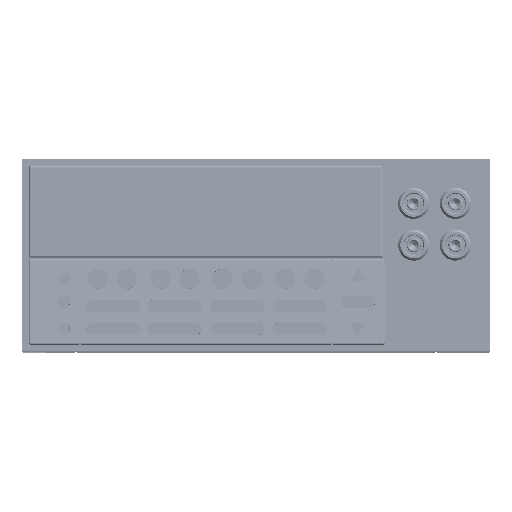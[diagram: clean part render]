
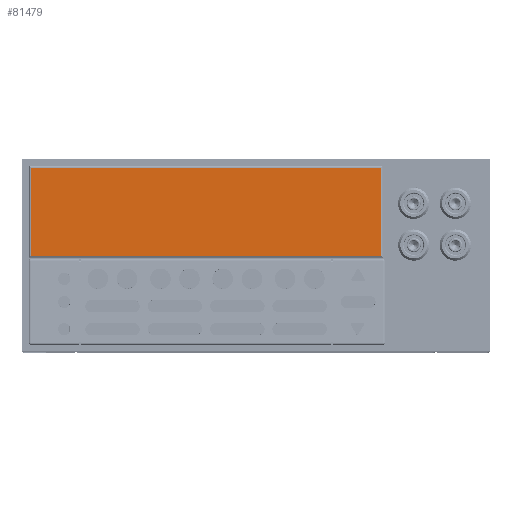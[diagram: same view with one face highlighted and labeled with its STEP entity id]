
A CAD part, top view. The second image highlights one B-rep face of the part: STEP entity #81479.
In plain terms, the highlighted planar face has unit normal (0, 0, 1).
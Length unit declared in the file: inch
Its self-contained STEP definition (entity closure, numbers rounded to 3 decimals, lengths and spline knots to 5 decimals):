
#81268=DIRECTION('',(1.,0.,0.));
#81269=VECTOR('',#81268,6.298);
#81270=CARTESIAN_POINT('',(0.035,0.035,0.093));
#81271=LINE('',#81270,#81269);
#81285=DIRECTION('',(0.,-1.,0.));
#81286=VECTOR('',#81285,1.578);
#81287=CARTESIAN_POINT('',(0.035,1.613,0.093));
#81288=LINE('',#81287,#81286);
#81311=DIRECTION('',(-1.,0.,0.));
#81312=VECTOR('',#81311,6.298);
#81313=CARTESIAN_POINT('',(6.333,1.613,0.093));
#81314=LINE('',#81313,#81312);
#81329=DIRECTION('',(0.,1.,0.));
#81330=VECTOR('',#81329,1.578);
#81331=CARTESIAN_POINT('',(6.333,0.035,0.093));
#81332=LINE('',#81331,#81330);
#81358=CARTESIAN_POINT('',(6.333,0.035,0.093));
#81359=CARTESIAN_POINT('',(6.333,1.613,0.093));
#81360=VERTEX_POINT('',#81358);
#81361=VERTEX_POINT('',#81359);
#81366=CARTESIAN_POINT('',(0.035,0.035,0.093));
#81367=VERTEX_POINT('',#81366);
#81370=CARTESIAN_POINT('',(0.035,1.613,0.093));
#81371=VERTEX_POINT('',#81370);
#81465=CARTESIAN_POINT('',(0.,0.,0.093));
#81466=DIRECTION('',(0.,0.,1.));
#81467=DIRECTION('',(1.,0.,0.));
#81468=AXIS2_PLACEMENT_3D('',#81465,#81466,#81467);
#81469=PLANE('',#81468);
#81471=ORIENTED_EDGE('',*,*,#81470,.F.);
#81473=ORIENTED_EDGE('',*,*,#81472,.F.);
#81475=ORIENTED_EDGE('',*,*,#81474,.F.);
#81476=ORIENTED_EDGE('',*,*,#81455,.F.);
#81477=EDGE_LOOP('',(#81471,#81473,#81475,#81476));
#81478=FACE_OUTER_BOUND('',#81477,.F.);
#81479=ADVANCED_FACE('',(#81478),#81469,.T.);
#81455=EDGE_CURVE('',#81367,#81360,#81271,.T.);
#81470=EDGE_CURVE('',#81371,#81367,#81288,.T.);
#81472=EDGE_CURVE('',#81361,#81371,#81314,.T.);
#81474=EDGE_CURVE('',#81360,#81361,#81332,.T.);
